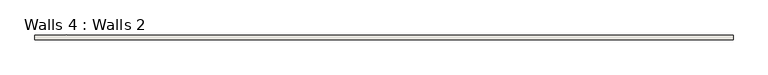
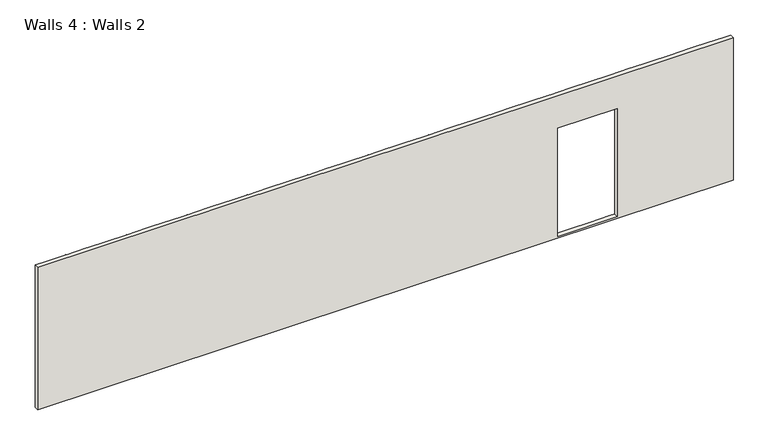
"""IFC4 building model written with IfcOpenShell, lengths in millimetres: wall geometry, Walls 4 : Walls 2."""

from ifc_helpers import new_model, si_unit, origin, place, context, project, spatial, faceted_brep, source, transform, mapped, element, save


def walls_4_walls_2_33bced6a(model_context):
    return source(origin(), model_context, "Body", "Brep", [
        faceted_brep([(6006.9536405, 3825.0638219, 3311.0), (19718.9536405, 3825.0638219, 3311.0), (19718.9536405, 3912.0638219, 3311.0), (19325.8336405, 3912.0638219, 3311.0), (19323.9536405, 3913.9438219, 3311.0), (19322.0736405, 3912.0638219, 3311.0), (18928.9536405, 3912.0638219, 3311.0), (18927.0736405, 3913.9438219, 3311.0), (18925.1936405, 3912.0638219, 3311.0), (18532.0736405, 3912.0638219, 3311.0), (18530.1936405, 3913.9438219, 3311.0), (18528.3136405, 3912.0638219, 3311.0), (18135.1936405, 3912.0638219, 3311.0), (18133.3136405, 3913.9438219, 3311.0), (18131.4336405, 3912.0638219, 3311.0), (17738.3136405, 3912.0638219, 3311.0), (17736.4336405, 3913.9438219, 3311.0), (17734.5536405, 3912.0638219, 3311.0), (17341.4336405, 3912.0638219, 3311.0), (17339.5536405, 3913.9438219, 3311.0), (17337.6736405, 3912.0638219, 3311.0), (16944.5536405, 3912.0638219, 3311.0), (16942.6736405, 3913.9438219, 3311.0), (16940.7936405, 3912.0638219, 3311.0), (16547.6736405, 3912.0638219, 3311.0), (16545.7936405, 3913.9438219, 3311.0), (16543.9136405, 3912.0638219, 3311.0), (16150.7936405, 3912.0638219, 3311.0), (16148.9136405, 3913.9438219, 3311.0), (16147.0336405, 3912.0638219, 3311.0), (15753.9136405, 3912.0638219, 3311.0), (15752.0336405, 3913.9438219, 3311.0), (15750.1536405, 3912.0638219, 3311.0), (15357.0336405, 3912.0638219, 3311.0), (15355.1536405, 3913.9438219, 3311.0), (15353.2736405, 3912.0638219, 3311.0), (14960.1536405, 3912.0638219, 3311.0), (14958.2736405, 3913.9438219, 3311.0), (14956.3936405, 3912.0638219, 3311.0), (14563.2736405, 3912.0638219, 3311.0), (14561.3936405, 3913.9438219, 3311.0), (14559.5136405, 3912.0638219, 3311.0), (14166.3936405, 3912.0638219, 3311.0), (14164.5136405, 3913.9438219, 3311.0), (14162.6336405, 3912.0638219, 3311.0), (13769.5136405, 3912.0638219, 3311.0), (13767.6336405, 3913.9438219, 3311.0), (13765.7536405, 3912.0638219, 3311.0), (13372.6336405, 3912.0638219, 3311.0), (13370.7536405, 3913.9438219, 3311.0), (13368.8736405, 3912.0638219, 3311.0), (12975.7536405, 3912.0638219, 3311.0), (12973.8736405, 3913.9438219, 3311.0), (12971.9936405, 3912.0638219, 3311.0), (12578.8736405, 3912.0638219, 3311.0), (12576.9936405, 3913.9438219, 3311.0), (12575.1136405, 3912.0638219, 3311.0), (12181.9936405, 3912.0638219, 3311.0), (12180.1136405, 3913.9438219, 3311.0), (12178.2336405, 3912.0638219, 3311.0), (11785.1136405, 3912.0638219, 3311.0), (11783.2336405, 3913.9438219, 3311.0), (11781.3536405, 3912.0638219, 3311.0), (11388.2336405, 3912.0638219, 3311.0), (11386.3536405, 3913.9438219, 3311.0), (11384.4736405, 3912.0638219, 3311.0), (10991.3536405, 3912.0638219, 3311.0), (10989.4736405, 3913.9438219, 3311.0), (10987.5936405, 3912.0638219, 3311.0), (10594.4736405, 3912.0638219, 3311.0), (10592.5936405, 3913.9438219, 3311.0), (10590.7136405, 3912.0638219, 3311.0), (10197.5936405, 3912.0638219, 3311.0), (10195.7136405, 3913.9438219, 3311.0), (10193.8336405, 3912.0638219, 3311.0), (9800.7136405, 3912.0638219, 3311.0), (9798.8336405, 3913.9438219, 3311.0), (9796.9536405, 3912.0638219, 3311.0), (9403.8336405, 3912.0638219, 3311.0), (9401.9536405, 3913.9438219, 3311.0), (9400.0736405, 3912.0638219, 3311.0), (9006.9536405, 3912.0638219, 3311.0), (9005.0736405, 3913.9438219, 3311.0), (9003.1936405, 3912.0638219, 3311.0), (8610.0736405, 3912.0638219, 3311.0), (8608.1936405, 3913.9438219, 3311.0), (8606.3136405, 3912.0638219, 3311.0), (8213.1936405, 3912.0638219, 3311.0), (8211.3136405, 3913.9438219, 3311.0), (8209.4336405, 3912.0638219, 3311.0), (7816.3136405, 3912.0638219, 3311.0), (7814.4336405, 3913.9438219, 3311.0), (7812.5536405, 3912.0638219, 3311.0), (7419.4336405, 3912.0638219, 3311.0), (7417.5536405, 3913.9438219, 3311.0), (7415.6736405, 3912.0638219, 3311.0), (7022.5536405, 3912.0638219, 3311.0), (7020.6736405, 3913.9438219, 3311.0), (7018.7936405, 3912.0638219, 3311.0), (6625.6736405, 3912.0638219, 3311.0), (6619.296812, 3918.4406505, 3311.0), (6612.9199834, 3912.0638219, 3311.0), (6228.7936405, 3912.0638219, 3311.0), (6226.9136405, 3913.9438219, 3311.0), (6225.0336405, 3912.0638219, 3311.0), (6006.9536405, 3912.0638219, 3311.0), (19718.9536405, 3825.0638219, 340.0), (6006.9536405, 3825.0638219, 340.0), (6006.9536405, 3912.0638219, 340.0), (6225.0336405, 3912.0638219, 340.0), (6226.9136405, 3913.9438219, 340.0), (6228.7936405, 3912.0638219, 340.0), (6612.9199834, 3912.0638219, 340.0), (6619.296812, 3918.4406505, 340.0), (6625.6736405, 3912.0638219, 340.0), (7018.7936405, 3912.0638219, 340.0), (7020.6736405, 3913.9438219, 340.0), (7022.5536405, 3912.0638219, 340.0), (7415.6736405, 3912.0638219, 340.0), (7417.5536405, 3913.9438219, 340.0), (7419.4336405, 3912.0638219, 340.0), (7812.5536405, 3912.0638219, 340.0), (7814.4336405, 3913.9438219, 340.0), (7816.3136405, 3912.0638219, 340.0), (8209.4336405, 3912.0638219, 340.0), (8211.3136405, 3913.9438219, 340.0), (8213.1936405, 3912.0638219, 340.0), (8606.3136405, 3912.0638219, 340.0), (8608.1936405, 3913.9438219, 340.0), (8610.0736405, 3912.0638219, 340.0), (9003.1936405, 3912.0638219, 340.0), (9005.0736405, 3913.9438219, 340.0), (9006.9536405, 3912.0638219, 340.0), (9400.0736405, 3912.0638219, 340.0), (9401.9536405, 3913.9438219, 340.0), (9403.8336405, 3912.0638219, 340.0), (9796.9536405, 3912.0638219, 340.0), (9798.8336405, 3913.9438219, 340.0), (9800.7136405, 3912.0638219, 340.0), (10193.8336405, 3912.0638219, 340.0), (10195.7136405, 3913.9438219, 340.0), (10197.5936405, 3912.0638219, 340.0), (10590.7136405, 3912.0638219, 340.0), (10592.5936405, 3913.9438219, 340.0), (10594.4736405, 3912.0638219, 340.0), (10987.5936405, 3912.0638219, 340.0), (10989.4736405, 3913.9438219, 340.0), (10991.3536405, 3912.0638219, 340.0), (11384.4736405, 3912.0638219, 340.0), (11386.3536405, 3913.9438219, 340.0), (11388.2336405, 3912.0638219, 340.0), (11781.3536405, 3912.0638219, 340.0), (11783.2336405, 3913.9438219, 340.0), (11785.1136405, 3912.0638219, 340.0), (12178.2336405, 3912.0638219, 340.0), (12180.1136405, 3913.9438219, 340.0), (12181.9936405, 3912.0638219, 340.0), (12575.1136405, 3912.0638219, 340.0), (12576.9936405, 3913.9438219, 340.0), (12578.8736405, 3912.0638219, 340.0), (12971.9936405, 3912.0638219, 340.0), (12973.8736405, 3913.9438219, 340.0), (12975.7536405, 3912.0638219, 340.0), (13368.8736405, 3912.0638219, 340.0), (13370.7536405, 3913.9438219, 340.0), (13372.6336405, 3912.0638219, 340.0), (13765.7536405, 3912.0638219, 340.0), (13767.6336405, 3913.9438219, 340.0), (13769.5136405, 3912.0638219, 340.0), (14162.6336405, 3912.0638219, 340.0), (14164.5136405, 3913.9438219, 340.0), (14166.3936405, 3912.0638219, 340.0), (14559.5136405, 3912.0638219, 340.0), (14561.3936405, 3913.9438219, 340.0), (14563.2736405, 3912.0638219, 340.0), (14956.3936405, 3912.0638219, 340.0), (14958.2736405, 3913.9438219, 340.0), (14960.1536405, 3912.0638219, 340.0), (15353.2736405, 3912.0638219, 340.0), (15355.1536405, 3913.9438219, 340.0), (15357.0336405, 3912.0638219, 340.0), (15750.1536405, 3912.0638219, 340.0), (15752.0336405, 3913.9438219, 340.0), (15753.9136405, 3912.0638219, 340.0), (16147.0336405, 3912.0638219, 340.0), (16148.9136405, 3913.9438219, 340.0), (16150.7936405, 3912.0638219, 340.0), (16543.9136405, 3912.0638219, 340.0), (16545.7936405, 3913.9438219, 340.0), (16547.6736405, 3912.0638219, 340.0), (16940.7936405, 3912.0638219, 340.0), (16942.6736405, 3913.9438219, 340.0), (16944.5536405, 3912.0638219, 340.0), (17337.6736405, 3912.0638219, 340.0), (17339.5536405, 3913.9438219, 340.0), (17341.4336405, 3912.0638219, 340.0), (17734.5536405, 3912.0638219, 340.0), (17736.4336405, 3913.9438219, 340.0), (17738.3136405, 3912.0638219, 340.0), (18131.4336405, 3912.0638219, 340.0), (18133.3136405, 3913.9438219, 340.0), (18135.1936405, 3912.0638219, 340.0), (18528.3136405, 3912.0638219, 340.0), (18530.1936405, 3913.9438219, 340.0), (18532.0736405, 3912.0638219, 340.0), (18925.1936405, 3912.0638219, 340.0), (18927.0736405, 3913.9438219, 340.0), (18928.9536405, 3912.0638219, 340.0), (19322.0736405, 3912.0638219, 340.0), (19323.9536405, 3913.9438219, 340.0), (19325.8336405, 3912.0638219, 340.0), (19718.9536405, 3912.0638219, 340.0), (17431.9536405, 3825.0638219, 2629.0), (17431.9536405, 3825.0638219, 375.0), (16256.9536405, 3825.0638219, 375.0), (16256.9536405, 3825.0638219, 2629.0), (17341.4336405, 3912.0638219, 375.0), (17431.9536405, 3912.0638219, 375.0), (17431.9536405, 3912.0638219, 2629.0), (17341.4336405, 3912.0638219, 2629.0), (17339.5536405, 3913.9438219, 2629.0), (17339.5536405, 3913.9438219, 375.0), (17337.6736405, 3912.0638219, 2629.0), (17337.6736405, 3912.0638219, 375.0), (16944.5536405, 3912.0638219, 2629.0), (16944.5536405, 3912.0638219, 375.0), (16942.6736405, 3913.9438219, 2629.0), (16942.6736405, 3913.9438219, 375.0), (16940.7936405, 3912.0638219, 2629.0), (16940.7936405, 3912.0638219, 375.0), (16547.6736405, 3912.0638219, 2629.0), (16547.6736405, 3912.0638219, 375.0), (16545.7936405, 3913.9438219, 2629.0), (16545.7936405, 3913.9438219, 375.0), (16543.9136405, 3912.0638219, 2629.0), (16543.9136405, 3912.0638219, 375.0), (16256.9536405, 3912.0638219, 2629.0), (16256.9536405, 3912.0638219, 375.0)], [[[0, 1, 2, 3, 4, 5, 6, 7, 8, 9, 10, 11, 12, 13, 14, 15, 16, 17, 18, 19, 20, 21, 22, 23, 24, 25, 26, 27, 28, 29, 30, 31, 32, 33, 34, 35, 36, 37, 38, 39, 40, 41, 42, 43, 44, 45, 46, 47, 48, 49, 50, 51, 52, 53, 54, 55, 56, 57, 58, 59, 60, 61, 62, 63, 64, 65, 66, 67, 68, 69, 70, 71, 72, 73, 74, 75, 76, 77, 78, 79, 80, 81, 82, 83, 84, 85, 86, 87, 88, 89, 90, 91, 92, 93, 94, 95, 96, 97, 98, 99, 100, 101, 102, 103, 104, 105]], [[106, 107, 108, 109, 110, 111, 112, 113, 114, 115, 116, 117, 118, 119, 120, 121, 122, 123, 124, 125, 126, 127, 128, 129, 130, 131, 132, 133, 134, 135, 136, 137, 138, 139, 140, 141, 142, 143, 144, 145, 146, 147, 148, 149, 150, 151, 152, 153, 154, 155, 156, 157, 158, 159, 160, 161, 162, 163, 164, 165, 166, 167, 168, 169, 170, 171, 172, 173, 174, 175, 176, 177, 178, 179, 180, 181, 182, 183, 184, 185, 186, 187, 188, 189, 190, 191, 192, 193, 194, 195, 196, 197, 198, 199, 200, 201, 202, 203, 204, 205, 206, 207, 208, 209, 210, 211]], [[107, 106, 1, 0], [212, 213, 214, 215]], [[108, 107, 0, 105]], [[2, 1, 106, 211]], [[3, 2, 211, 210]], [[4, 3, 210, 209]], [[5, 4, 209, 208]], [[6, 5, 208, 207]], [[7, 6, 207, 206]], [[8, 7, 206, 205]], [[9, 8, 205, 204]], [[10, 9, 204, 203]], [[11, 10, 203, 202]], [[12, 11, 202, 201]], [[13, 12, 201, 200]], [[14, 13, 200, 199]], [[15, 14, 199, 198]], [[16, 15, 198, 197]], [[17, 16, 197, 196]], [[18, 17, 196, 195, 216, 217, 218, 219]], [[19, 18, 219, 220]], [[195, 194, 221, 216]], [[20, 19, 220, 222]], [[194, 193, 223, 221]], [[21, 20, 222, 224]], [[193, 192, 225, 223]], [[22, 21, 224, 226]], [[192, 191, 227, 225]], [[23, 22, 226, 228]], [[191, 190, 229, 227]], [[24, 23, 228, 230]], [[190, 189, 231, 229]], [[25, 24, 230, 232]], [[189, 188, 233, 231]], [[26, 25, 232, 234]], [[188, 187, 235, 233]], [[27, 26, 234, 236, 237, 235, 187, 186]], [[28, 27, 186, 185]], [[29, 28, 185, 184]], [[30, 29, 184, 183]], [[31, 30, 183, 182]], [[32, 31, 182, 181]], [[33, 32, 181, 180]], [[34, 33, 180, 179]], [[35, 34, 179, 178]], [[36, 35, 178, 177]], [[37, 36, 177, 176]], [[38, 37, 176, 175]], [[39, 38, 175, 174]], [[40, 39, 174, 173]], [[41, 40, 173, 172]], [[42, 41, 172, 171]], [[43, 42, 171, 170]], [[44, 43, 170, 169]], [[45, 44, 169, 168]], [[46, 45, 168, 167]], [[47, 46, 167, 166]], [[48, 47, 166, 165]], [[49, 48, 165, 164]], [[50, 49, 164, 163]], [[51, 50, 163, 162]], [[52, 51, 162, 161]], [[53, 52, 161, 160]], [[54, 53, 160, 159]], [[55, 54, 159, 158]], [[56, 55, 158, 157]], [[57, 56, 157, 156]], [[58, 57, 156, 155]], [[59, 58, 155, 154]], [[60, 59, 154, 153]], [[61, 60, 153, 152]], [[62, 61, 152, 151]], [[63, 62, 151, 150]], [[64, 63, 150, 149]], [[65, 64, 149, 148]], [[66, 65, 148, 147]], [[67, 66, 147, 146]], [[68, 67, 146, 145]], [[69, 68, 145, 144]], [[70, 69, 144, 143]], [[71, 70, 143, 142]], [[72, 71, 142, 141]], [[73, 72, 141, 140]], [[74, 73, 140, 139]], [[75, 74, 139, 138]], [[76, 75, 138, 137]], [[77, 76, 137, 136]], [[78, 77, 136, 135]], [[79, 78, 135, 134]], [[80, 79, 134, 133]], [[81, 80, 133, 132]], [[82, 81, 132, 131]], [[83, 82, 131, 130]], [[84, 83, 130, 129]], [[85, 84, 129, 128]], [[86, 85, 128, 127]], [[87, 86, 127, 126]], [[88, 87, 126, 125]], [[89, 88, 125, 124]], [[90, 89, 124, 123]], [[91, 90, 123, 122]], [[92, 91, 122, 121]], [[93, 92, 121, 120]], [[94, 93, 120, 119]], [[95, 94, 119, 118]], [[96, 95, 118, 117]], [[97, 96, 117, 116]], [[98, 97, 116, 115]], [[99, 98, 115, 114]], [[100, 99, 114, 113]], [[101, 100, 113, 112]], [[102, 101, 112, 111]], [[103, 102, 111, 110]], [[104, 103, 110, 109]], [[105, 104, 109, 108]], [[217, 213, 212, 218]], [[218, 212, 215, 236, 234, 232, 230, 228, 226, 224, 222, 220, 219]], [[236, 215, 214, 237]], [[213, 217, 216, 221, 223, 225, 227, 229, 231, 233, 235, 237, 214]]]),
    ])


if __name__ == "__main__":
    model = new_model("IFC4")
    model_context = context("Model", 3, world=origin())
    ifc_project = project(units=[si_unit("LENGTHUNIT", "METRE", prefix="MILLI")], contexts=[model_context])
    site = spatial("IfcSite", under=ifc_project)
    building = spatial("IfcBuilding", under=site)
    placement = place(None, origin())
    walls_4_walls_2_shape = walls_4_walls_2_33bced6a(model_context)
    element("IfcWall", 1, ObjectType="Walls 4 : Walls 2", at=placement, inside=building, context=model_context, shape_type="MappedRepresentation", body=[
        mapped(walls_4_walls_2_shape, transform((0.0, 0.0, 0.0), x_axis=(1.0, 0.0, 0.0), y_axis=(0.0, 1.0, 0.0), z_axis=(0.0, 0.0, 1.0))),
    ])
    save(model, "model.ifc")
